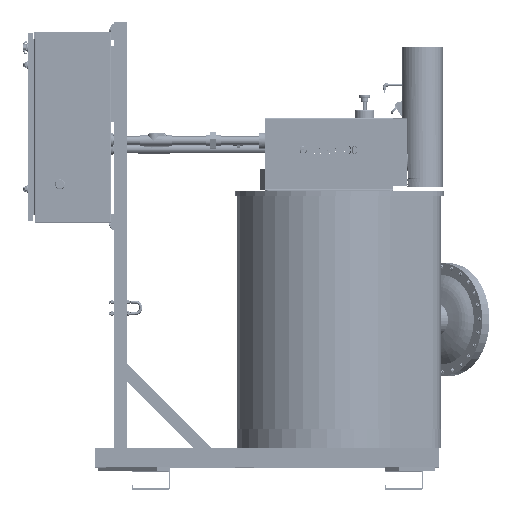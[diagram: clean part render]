
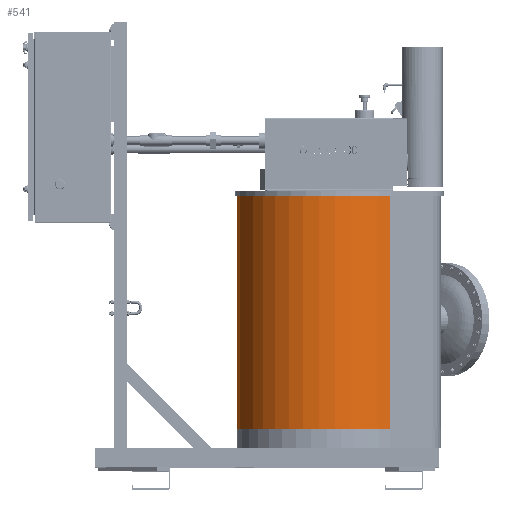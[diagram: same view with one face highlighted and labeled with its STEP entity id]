
A CAD part, top view. The second image highlights one B-rep face of the part: STEP entity #541.
In plain terms, the highlighted cylindrical face has radius 359.156 mm (diameter 718.312 mm), a partial arc.
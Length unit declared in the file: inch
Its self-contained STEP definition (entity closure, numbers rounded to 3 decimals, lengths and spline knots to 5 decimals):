
#541 = ADVANCED_FACE ( 'NONE', ( #160100 ), #160102, .T. ) ;
#14968 = VERTEX_POINT ( 'NONE', #230010 ) ;
#15166 = VERTEX_POINT ( 'NONE', #230117 ) ;
#15168 = VERTEX_POINT ( 'NONE', #230118 ) ;
#15176 = VERTEX_POINT ( 'NONE', #230122 ) ;
#52453 = CARTESIAN_POINT ( 'NONE',  ( 0., 19.75, 0. ) ) ;
#52457 = DIRECTION ( 'NONE',  ( 0., -1., 0. ) ) ;
#52461 = DIRECTION ( 'NONE',  ( -1., 0., 0. ) ) ;
#52522 = CARTESIAN_POINT ( 'NONE',  ( 9.99962, 19.75, 9.99736 ) ) ;
#52542 = LINE ( 'NONE', #52522, #115878 ) ;
#52560 = DIRECTION ( 'NONE',  ( 0., -1., 0. ) ) ;
#52684 = CARTESIAN_POINT ( 'NONE',  ( 0., -17.25, 0. ) ) ;
#52688 = DIRECTION ( 'NONE',  ( 0., -1., 0. ) ) ;
#52691 = DIRECTION ( 'NONE',  ( -1., 0., 0. ) ) ;
#52695 = LINE ( 'NONE', #52773, #115922 ) ;
#52773 = CARTESIAN_POINT ( 'NONE',  ( 9.99962, 19.75, -9.99736 ) ) ;
#52782 = DIRECTION ( 'NONE',  ( 0., -1., 0. ) ) ;
#115876 = CIRCLE ( 'NONE', #115882, 14.14 ) ;
#115878 = VECTOR ( 'NONE', #52560, 39.37008 ) ;
#115882 = AXIS2_PLACEMENT_3D ( 'NONE', #52453, #52457, #52461 ) ;
#115908 = CIRCLE ( 'NONE', #115913, 14.14 ) ;
#115913 = AXIS2_PLACEMENT_3D ( 'NONE', #52684, #52688, #52691 ) ;
#115922 = VECTOR ( 'NONE', #52782, 39.37008 ) ;
#121820 = AXIS2_PLACEMENT_3D ( 'NONE', #160101, #160096, #160103 ) ;
#126086 = EDGE_CURVE ( 'NONE', #14968, #15168, #115876, .T. ) ;
#126100 = EDGE_CURVE ( 'NONE', #14968, #15176, #52542, .T. ) ;
#126128 = EDGE_CURVE ( 'NONE', #15176, #15166, #115908, .T. ) ;
#126152 = EDGE_CURVE ( 'NONE', #15168, #15166, #52695, .T. ) ;
#133986 = ORIENTED_EDGE ( 'NONE', *, *, #126152, .T. ) ;
#133990 = ORIENTED_EDGE ( 'NONE', *, *, #126128, .F. ) ;
#133993 = ORIENTED_EDGE ( 'NONE', *, *, #126100, .F. ) ;
#133996 = ORIENTED_EDGE ( 'NONE', *, *, #126086, .T. ) ;
#160096 = DIRECTION ( 'NONE',  ( 0., -1., 0. ) ) ;
#160100 = FACE_OUTER_BOUND ( 'NONE', #242546, .T. ) ;
#160101 = CARTESIAN_POINT ( 'NONE',  ( 0., 19.75, 0. ) ) ;
#160102 = CYLINDRICAL_SURFACE ( 'NONE', #121820, 14.14 ) ;
#160103 = DIRECTION ( 'NONE',  ( 1., 0., 0. ) ) ;
#230010 = CARTESIAN_POINT ( 'NONE',  ( 9.99962, 19.75, 9.99736 ) ) ;
#230117 = CARTESIAN_POINT ( 'NONE',  ( 9.99962, -17.25, -9.99736 ) ) ;
#230118 = CARTESIAN_POINT ( 'NONE',  ( 9.99962, 19.75, -9.99736 ) ) ;
#230122 = CARTESIAN_POINT ( 'NONE',  ( 9.99962, -17.25, 9.99736 ) ) ;
#242546 = EDGE_LOOP ( 'NONE', ( #133986, #133990, #133993, #133996 ) ) ;
